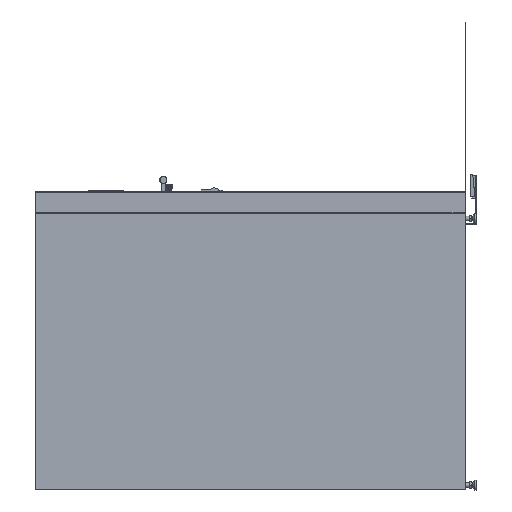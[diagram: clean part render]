
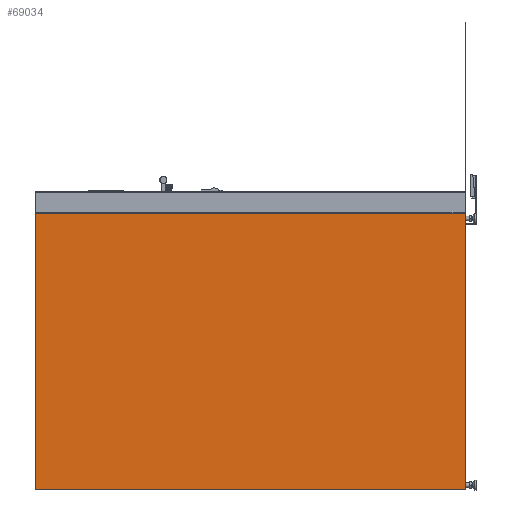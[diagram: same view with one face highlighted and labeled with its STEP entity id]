
A CAD part, left-side view. The second image highlights one B-rep face of the part: STEP entity #69034.
In plain terms, the highlighted planar face has unit normal (-1, 0, 0) as drawn and (0, 0, 1) by its records, which use the part's own axes.
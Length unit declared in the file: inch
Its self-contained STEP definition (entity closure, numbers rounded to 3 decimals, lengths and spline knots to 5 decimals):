
#6960 = VECTOR ( 'NONE', #95648, 39.37008 ) ;
#10938 = DIRECTION ( 'NONE',  ( -1., 0., 0. ) ) ;
#11729 = LINE ( 'NONE', #37433, #16334 ) ;
#12781 = PLANE ( 'NONE',  #92117 ) ;
#16334 = VECTOR ( 'NONE', #10938, 39.37008 ) ;
#16923 = VERTEX_POINT ( 'NONE', #42318 ) ;
#21123 = LINE ( 'NONE', #57346, #49141 ) ;
#25775 = VECTOR ( 'NONE', #143124, 39.37008 ) ;
#35561 = EDGE_CURVE ( 'NONE', #157456, #16923, #21123, .T. ) ;
#35949 = VERTEX_POINT ( 'NONE', #48015 ) ;
#36111 = CARTESIAN_POINT ( 'NONE',  ( 0., 0., 0. ) ) ;
#37433 = CARTESIAN_POINT ( 'NONE',  ( 22.46039, 34.94, 0. ) ) ;
#42318 = CARTESIAN_POINT ( 'NONE',  ( 22.44, 34.94, 0. ) ) ;
#43488 = CARTESIAN_POINT ( 'NONE',  ( -22.44, 34.96039, 0. ) ) ;
#47422 = LINE ( 'NONE', #82839, #6960 ) ;
#48015 = CARTESIAN_POINT ( 'NONE',  ( -22.44, -34.94, 0. ) ) ;
#49141 = VECTOR ( 'NONE', #83820, 39.37008 ) ;
#53418 = CARTESIAN_POINT ( 'NONE',  ( 22.44, -34.94, 0. ) ) ;
#56081 = EDGE_CURVE ( 'NONE', #16923, #59164, #11729, .T. ) ;
#57346 = CARTESIAN_POINT ( 'NONE',  ( 22.44, -34.96039, 0. ) ) ;
#58890 = EDGE_LOOP ( 'NONE', ( #78248, #59970, #100527, #60304 ) ) ;
#59164 = VERTEX_POINT ( 'NONE', #105533 ) ;
#59970 = ORIENTED_EDGE ( 'NONE', *, *, #35561, .T. ) ;
#60304 = ORIENTED_EDGE ( 'NONE', *, *, #83933, .T. ) ;
#69034 = ADVANCED_FACE ( 'NONE', ( #144656 ), #12781, .F. ) ;
#78248 = ORIENTED_EDGE ( 'NONE', *, *, #100609, .T. ) ;
#82839 = CARTESIAN_POINT ( 'NONE',  ( -22.46039, -34.94, 0. ) ) ;
#83820 = DIRECTION ( 'NONE',  ( 0., 1., 0. ) ) ;
#83933 = EDGE_CURVE ( 'NONE', #59164, #35949, #119027, .T. ) ;
#85171 = DIRECTION ( 'NONE',  ( -1., 0., 0. ) ) ;
#92117 = AXIS2_PLACEMENT_3D ( 'NONE', #36111, #120552, #85171 ) ;
#95648 = DIRECTION ( 'NONE',  ( 1., 0., 0. ) ) ;
#100527 = ORIENTED_EDGE ( 'NONE', *, *, #56081, .T. ) ;
#100609 = EDGE_CURVE ( 'NONE', #35949, #157456, #47422, .T. ) ;
#105533 = CARTESIAN_POINT ( 'NONE',  ( -22.44, 34.94, 0. ) ) ;
#119027 = LINE ( 'NONE', #43488, #25775 ) ;
#120552 = DIRECTION ( 'NONE',  ( 0., 0., -1. ) ) ;
#143124 = DIRECTION ( 'NONE',  ( 0., -1., 0. ) ) ;
#144656 = FACE_OUTER_BOUND ( 'NONE', #58890, .T. ) ;
#157456 = VERTEX_POINT ( 'NONE', #53418 ) ;
